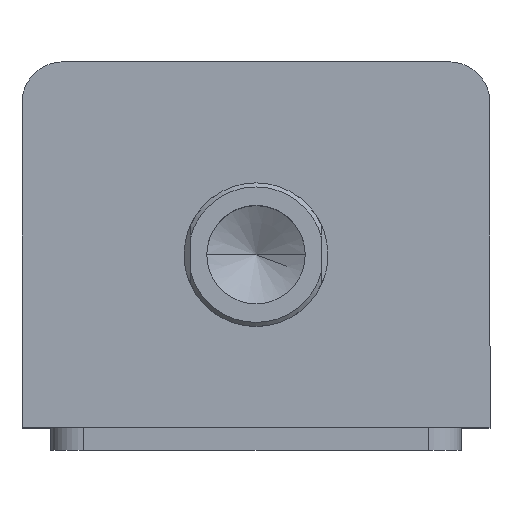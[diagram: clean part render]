
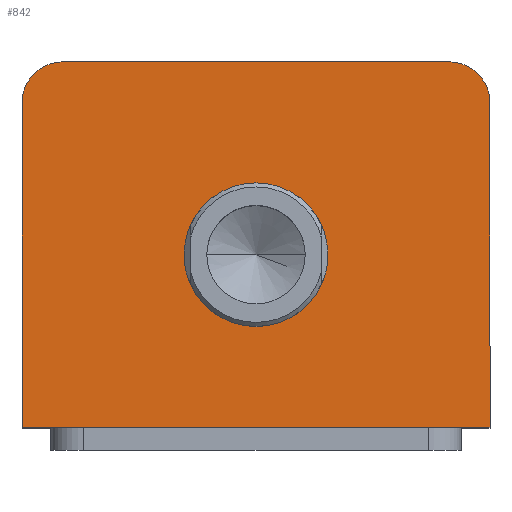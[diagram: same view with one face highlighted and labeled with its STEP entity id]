
A CAD part, top view. The second image highlights one B-rep face of the part: STEP entity #842.
In plain terms, the highlighted planar face has unit normal (0, 0, 1).
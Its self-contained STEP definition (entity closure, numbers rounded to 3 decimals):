
#151 = CARTESIAN_POINT ( 'NONE',  ( 57., 34.5, 152. ) ) ;
#154 = CARTESIAN_POINT ( 'NONE',  ( -57., 34.5, 152. ) ) ;
#720 = CARTESIAN_POINT ( 'NONE',  ( 47., 34.5, 152. ) ) ;
#721 = DIRECTION ( 'NONE',  ( 0., 0., 1. ) ) ;
#722 = DIRECTION ( 'NONE',  ( 1., 0., 0. ) ) ;
#747 = CARTESIAN_POINT ( 'NONE',  ( -47., 34.5, 152. ) ) ;
#748 = DIRECTION ( 'NONE',  ( 0., 0., 1. ) ) ;
#749 = DIRECTION ( 'NONE',  ( 1., 0., 0. ) ) ;
#757 = CARTESIAN_POINT ( 'NONE',  ( -57., 44.5, 152. ) ) ;
#758 = DIRECTION ( 'NONE',  ( 0., -1., 0. ) ) ;
#842 = ADVANCED_FACE ( 'NONE', ( #966, #969 ), #2400, .T. ) ;
#966 = FACE_BOUND ( 'NONE', #1905, .T. ) ;
#969 = FACE_OUTER_BOUND ( 'NONE', #1914, .T. ) ;
#1178 = CIRCLE ( 'NONE', #3108, 17.5 ) ;
#1184 = CIRCLE ( 'NONE', #3107, 17.5 ) ;
#1190 = LINE ( 'NONE', #2127, #1197 ) ;
#1197 = VECTOR ( 'NONE', #1628, 1000. ) ;
#1221 = LINE ( 'NONE', #1661, #1224 ) ;
#1224 = VECTOR ( 'NONE', #1662, 1000. ) ;
#1260 = LINE ( 'NONE', #1700, #1263 ) ;
#1263 = VECTOR ( 'NONE', #1701, 1000. ) ;
#1267 = CIRCLE ( 'NONE', #3092, 10. ) ;
#1280 = CIRCLE ( 'NONE', #3085, 10. ) ;
#1286 = LINE ( 'NONE', #757, #1289 ) ;
#1289 = VECTOR ( 'NONE', #758, 1000. ) ;
#1328 = VERTEX_POINT ( 'NONE', #151 ) ;
#1331 = VERTEX_POINT ( 'NONE', #154 ) ;
#1610 = DIRECTION ( 'NONE',  ( 0., 0., 1. ) ) ;
#1611 = DIRECTION ( 'NONE',  ( 1., 0., 0. ) ) ;
#1628 = DIRECTION ( 'NONE',  ( 1., 0., 0. ) ) ;
#1661 = CARTESIAN_POINT ( 'NONE',  ( -57., 44.5, 152. ) ) ;
#1662 = DIRECTION ( 'NONE',  ( -1., 0., 0. ) ) ;
#1700 = CARTESIAN_POINT ( 'NONE',  ( 57., 44.5, 152. ) ) ;
#1701 = DIRECTION ( 'NONE',  ( 0., 1., 0. ) ) ;
#1905 = EDGE_LOOP ( 'NONE', ( #2146, #2147 ) ) ;
#1914 = EDGE_LOOP ( 'NONE', ( #2148, #2149, #2150, #2151, #2152, #2153 ) ) ;
#1978 = VERTEX_POINT ( 'NONE', #2563 ) ;
#1979 = VERTEX_POINT ( 'NONE', #2564 ) ;
#1980 = VERTEX_POINT ( 'NONE', #2565 ) ;
#1984 = VERTEX_POINT ( 'NONE', #2569 ) ;
#1998 = VERTEX_POINT ( 'NONE', #2583 ) ;
#2001 = VERTEX_POINT ( 'NONE', #2586 ) ;
#2122 = CARTESIAN_POINT ( 'NONE',  ( 0., -2.5, 152. ) ) ;
#2123 = DIRECTION ( 'NONE',  ( 0., 0., 1. ) ) ;
#2124 = DIRECTION ( 'NONE',  ( 1., 0., 0. ) ) ;
#2127 = CARTESIAN_POINT ( 'NONE',  ( -57., -44.5, 152. ) ) ;
#2128 = CARTESIAN_POINT ( 'NONE',  ( 0., -2.5, 152. ) ) ;
#2146 = ORIENTED_EDGE ( 'NONE', *, *, #3349, .F. ) ;
#2147 = ORIENTED_EDGE ( 'NONE', *, *, #3346, .F. ) ;
#2148 = ORIENTED_EDGE ( 'NONE', *, *, #3371, .T. ) ;
#2149 = ORIENTED_EDGE ( 'NONE', *, *, #3408, .T. ) ;
#2150 = ORIENTED_EDGE ( 'NONE', *, *, #3412, .T. ) ;
#2151 = ORIENTED_EDGE ( 'NONE', *, *, #3356, .T. ) ;
#2152 = ORIENTED_EDGE ( 'NONE', *, *, #3391, .T. ) ;
#2153 = ORIENTED_EDGE ( 'NONE', *, *, #3399, .T. ) ;
#2394 = CARTESIAN_POINT ( 'NONE',  ( 0., 0., 152. ) ) ;
#2400 = PLANE ( 'NONE',  #3282 ) ;
#2402 = DIRECTION ( 'NONE',  ( 0., 0., 1. ) ) ;
#2403 = DIRECTION ( 'NONE',  ( 1., 0., 0. ) ) ;
#2563 = CARTESIAN_POINT ( 'NONE',  ( -17.5, -2.5, 152. ) ) ;
#2564 = CARTESIAN_POINT ( 'NONE',  ( -57., -44.5, 152. ) ) ;
#2565 = CARTESIAN_POINT ( 'NONE',  ( 17.5, -2.5, 152. ) ) ;
#2569 = CARTESIAN_POINT ( 'NONE',  ( 57., -44.5, 152. ) ) ;
#2583 = CARTESIAN_POINT ( 'NONE',  ( 47., 44.5, 152. ) ) ;
#2586 = CARTESIAN_POINT ( 'NONE',  ( -47., 44.5, 152. ) ) ;
#3085 = AXIS2_PLACEMENT_3D ( 'NONE', #747, #748, #749 ) ;
#3092 = AXIS2_PLACEMENT_3D ( 'NONE', #720, #721, #722 ) ;
#3107 = AXIS2_PLACEMENT_3D ( 'NONE', #2128, #1610, #1611 ) ;
#3108 = AXIS2_PLACEMENT_3D ( 'NONE', #2122, #2123, #2124 ) ;
#3282 = AXIS2_PLACEMENT_3D ( 'NONE', #2394, #2402, #2403 ) ;
#3346 = EDGE_CURVE ( 'NONE', #1978, #1980, #1178, .T. ) ;
#3349 = EDGE_CURVE ( 'NONE', #1980, #1978, #1184, .T. ) ;
#3356 = EDGE_CURVE ( 'NONE', #1979, #1984, #1190, .T. ) ;
#3371 = EDGE_CURVE ( 'NONE', #1998, #2001, #1221, .T. ) ;
#3391 = EDGE_CURVE ( 'NONE', #1984, #1328, #1260, .T. ) ;
#3399 = EDGE_CURVE ( 'NONE', #1328, #1998, #1267, .T. ) ;
#3408 = EDGE_CURVE ( 'NONE', #2001, #1331, #1280, .T. ) ;
#3412 = EDGE_CURVE ( 'NONE', #1331, #1979, #1286, .T. ) ;
